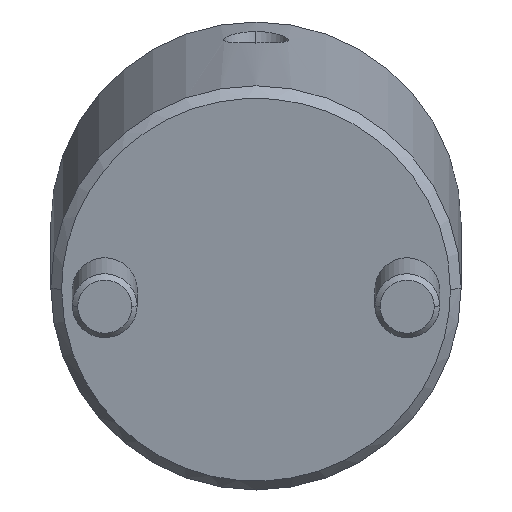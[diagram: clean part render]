
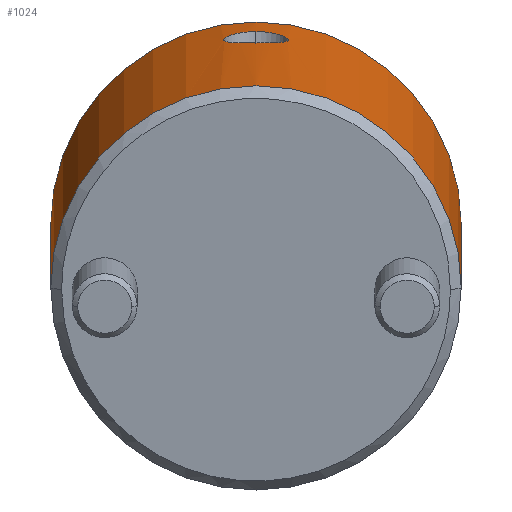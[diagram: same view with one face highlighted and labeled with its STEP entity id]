
A CAD part, front view. The second image highlights one B-rep face of the part: STEP entity #1024.
In plain terms, the highlighted cylindrical face has radius 19 mm (diameter 38 mm), a partial arc.
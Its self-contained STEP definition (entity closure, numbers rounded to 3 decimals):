
#760=CARTESIAN_POINT('Vertex',(0.,19.,1.)) ;
#763=CARTESIAN_POINT('Axis2P3D Location',(0.,0.,1.)) ;
#767=CARTESIAN_POINT('Vertex',(0.,-19.,1.)) ;
#919=CARTESIAN_POINT('Axis2P3D Location',(0.,0.,-1.8)) ;
#924=CARTESIAN_POINT('Line Origine',(0.,19.,-1.8)) ;
#928=CARTESIAN_POINT('Vertex',(0.,19.,35.)) ;
#931=CARTESIAN_POINT('Axis2P3D Location',(0.,0.,35.)) ;
#935=CARTESIAN_POINT('Vertex',(0.,-19.,35.)) ;
#938=CARTESIAN_POINT('Line Origine',(0.,-19.,-1.8)) ;
#950=CARTESIAN_POINT('Control Point',(19.,0.,29.901)) ;
#951=CARTESIAN_POINT('Control Point',(19.,0.082,29.901)) ;
#952=CARTESIAN_POINT('Control Point',(19.,0.164,29.898)) ;
#953=CARTESIAN_POINT('Control Point',(18.999,0.246,29.893)) ;
#954=CARTESIAN_POINT('Control Point',(18.995,0.492,29.866)) ;
#955=CARTESIAN_POINT('Control Point',(18.987,0.735,29.813)) ;
#956=CARTESIAN_POINT('Control Point',(18.98,0.898,29.765)) ;
#957=CARTESIAN_POINT('Control Point',(18.963,1.213,29.648)) ;
#958=CARTESIAN_POINT('Control Point',(18.941,1.506,29.488)) ;
#959=CARTESIAN_POINT('Control Point',(18.929,1.648,29.396)) ;
#960=CARTESIAN_POINT('Control Point',(18.904,1.921,29.193)) ;
#961=CARTESIAN_POINT('Control Point',(18.877,2.164,28.954)) ;
#962=CARTESIAN_POINT('Control Point',(18.864,2.277,28.825)) ;
#963=CARTESIAN_POINT('Control Point',(18.837,2.486,28.552)) ;
#964=CARTESIAN_POINT('Control Point',(18.814,2.657,28.251)) ;
#965=CARTESIAN_POINT('Control Point',(18.803,2.732,28.096)) ;
#966=CARTESIAN_POINT('Control Point',(18.784,2.86,27.777)) ;
#967=CARTESIAN_POINT('Control Point',(18.771,2.943,27.44)) ;
#968=CARTESIAN_POINT('Control Point',(18.766,2.974,27.267)) ;
#969=CARTESIAN_POINT('Control Point',(18.76,3.01,26.926)) ;
#970=CARTESIAN_POINT('Control Point',(18.762,2.999,26.584)) ;
#971=CARTESIAN_POINT('Control Point',(18.765,2.981,26.414)) ;
#972=CARTESIAN_POINT('Control Point',(18.776,2.908,25.993)) ;
#973=CARTESIAN_POINT('Control Point',(18.798,2.765,25.595)) ;
#974=CARTESIAN_POINT('Control Point',(18.815,2.653,25.367)) ;
#975=CARTESIAN_POINT('Control Point',(18.858,2.339,24.863)) ;
#976=CARTESIAN_POINT('Control Point',(18.906,1.913,24.454)) ;
#977=CARTESIAN_POINT('Control Point',(18.933,1.635,24.253)) ;
#978=CARTESIAN_POINT('Control Point',(18.97,1.148,24.)) ;
#979=CARTESIAN_POINT('Control Point',(18.992,0.616,23.861)) ;
#980=CARTESIAN_POINT('Control Point',(18.997,0.411,23.826)) ;
#981=CARTESIAN_POINT('Control Point',(19.,0.206,23.809)) ;
#982=CARTESIAN_POINT('Control Point',(19.,0.,23.809)) ;
#983=CARTESIAN_POINT('Vertex',(19.,0.,29.901)) ;
#985=CARTESIAN_POINT('Vertex',(19.,0.,23.809)) ;
#989=CARTESIAN_POINT('Control Point',(19.,0.,23.809)) ;
#990=CARTESIAN_POINT('Control Point',(19.,-0.168,23.809)) ;
#991=CARTESIAN_POINT('Control Point',(18.998,-0.336,23.82)) ;
#992=CARTESIAN_POINT('Control Point',(18.994,-0.503,23.843)) ;
#993=CARTESIAN_POINT('Control Point',(18.983,-0.835,23.914)) ;
#994=CARTESIAN_POINT('Control Point',(18.966,-1.155,24.03)) ;
#995=CARTESIAN_POINT('Control Point',(18.956,-1.309,24.098)) ;
#996=CARTESIAN_POINT('Control Point',(18.933,-1.607,24.257)) ;
#997=CARTESIAN_POINT('Control Point',(18.907,-1.88,24.456)) ;
#998=CARTESIAN_POINT('Control Point',(18.894,-2.01,24.565)) ;
#999=CARTESIAN_POINT('Control Point',(18.867,-2.251,24.799)) ;
#1000=CARTESIAN_POINT('Control Point',(18.841,-2.456,25.066)) ;
#1001=CARTESIAN_POINT('Control Point',(18.828,-2.55,25.207)) ;
#1002=CARTESIAN_POINT('Control Point',(18.799,-2.758,25.572)) ;
#1003=CARTESIAN_POINT('Control Point',(18.778,-2.899,25.971)) ;
#1004=CARTESIAN_POINT('Control Point',(18.768,-2.959,26.222)) ;
#1005=CARTESIAN_POINT('Control Point',(18.759,-3.015,26.646)) ;
#1006=CARTESIAN_POINT('Control Point',(18.762,-2.996,27.073)) ;
#1007=CARTESIAN_POINT('Control Point',(18.765,-2.977,27.245)) ;
#1008=CARTESIAN_POINT('Control Point',(18.778,-2.899,27.673)) ;
#1009=CARTESIAN_POINT('Control Point',(18.8,-2.75,28.08)) ;
#1010=CARTESIAN_POINT('Control Point',(18.817,-2.634,28.314)) ;
#1011=CARTESIAN_POINT('Control Point',(18.855,-2.359,28.755)) ;
#1012=CARTESIAN_POINT('Control Point',(18.895,-2.004,29.125)) ;
#1013=CARTESIAN_POINT('Control Point',(18.916,-1.807,29.291)) ;
#1014=CARTESIAN_POINT('Control Point',(18.955,-1.36,29.597)) ;
#1015=CARTESIAN_POINT('Control Point',(18.984,-0.854,29.794)) ;
#1016=CARTESIAN_POINT('Control Point',(18.995,-0.569,29.867)) ;
#1017=CARTESIAN_POINT('Control Point',(19.,-0.286,29.901)) ;
#1018=CARTESIAN_POINT('Control Point',(19.,0.,29.901)) ;
#764=DIRECTION('Axis2P3D Direction',(0.,0.,1.)) ;
#920=DIRECTION('Axis2P3D Direction',(0.,-0.,1.)) ;
#921=DIRECTION('Axis2P3D XDirection',(0.,-1.,0.)) ;
#925=DIRECTION('Vector Direction',(0.,0.,1.)) ;
#932=DIRECTION('Axis2P3D Direction',(0.,-0.,1.)) ;
#939=DIRECTION('Vector Direction',(0.,0.,1.)) ;
#765=AXIS2_PLACEMENT_3D('Circle Axis2P3D',#763,#764,$) ;
#922=AXIS2_PLACEMENT_3D('Cylinder Axis2P3D',#919,#920,#921) ;
#933=AXIS2_PLACEMENT_3D('Circle Axis2P3D',#931,#932,$) ;
#944=ORIENTED_EDGE('',*,*,#930,.F.) ;
#945=ORIENTED_EDGE('',*,*,#937,.T.) ;
#946=ORIENTED_EDGE('',*,*,#942,.T.) ;
#947=ORIENTED_EDGE('',*,*,#769,.F.) ;
#1021=ORIENTED_EDGE('',*,*,#987,.T.) ;
#1022=ORIENTED_EDGE('',*,*,#1019,.T.) ;
#1023=FACE_BOUND('',#1020,.T.) ;
#926=VECTOR('Line Direction',#925,1.) ;
#940=VECTOR('Line Direction',#939,1.) ;
#1024=ADVANCED_FACE('MANIFOLD_SOLID_BREP #1114',(#948,#1023),#923,.T.) ;
#949=B_SPLINE_CURVE_WITH_KNOTS('',5,(#950,#951,#952,#953,#954,#955,#956,#957,#958,#959,#960,#961,#962,#963,#964,#965,#966,#967,#968,#969,#970,#971,#972,#973,#974,#975,#976,#977,#978,#979,#980,#981,#982),.UNSPECIFIED.,.F.,.U.,(6,3,3,3,3,3,3,3,3,3,6),(0.,0.588,1.773,2.977,4.199,5.406,6.605,7.797,9.591,11.987,13.455),.UNSPECIFIED.) ;
#988=B_SPLINE_CURVE_WITH_KNOTS('',5,(#989,#990,#991,#992,#993,#994,#995,#996,#997,#998,#999,#1000,#1001,#1002,#1003,#1004,#1005,#1006,#1007,#1008,#1009,#1010,#1011,#1012,#1013,#1014,#1015,#1016,#1017,#1018),.UNSPECIFIED.,.F.,.U.,(6,3,3,3,3,3,3,3,3,6),(0.,1.205,2.406,3.611,4.813,6.599,7.796,9.61,11.423,13.458),.UNSPECIFIED.) ;
#766=CIRCLE('generated circle',#765,19.) ;
#934=CIRCLE('generated circle',#933,19.) ;
#923=CYLINDRICAL_SURFACE('generated cylinder',#922,19.) ;
#769=EDGE_CURVE('',#761,#768,#766,.F.) ;
#930=EDGE_CURVE('',#929,#761,#927,.F.) ;
#937=EDGE_CURVE('',#929,#936,#934,.F.) ;
#942=EDGE_CURVE('',#936,#768,#941,.F.) ;
#987=EDGE_CURVE('',#984,#986,#949,.T.) ;
#1019=EDGE_CURVE('',#986,#984,#988,.T.) ;
#943=EDGE_LOOP('',(#944,#945,#946,#947)) ;
#1020=EDGE_LOOP('',(#1021,#1022)) ;
#948=FACE_OUTER_BOUND('',#943,.T.) ;
#927=LINE('Line',#924,#926) ;
#941=LINE('Line',#938,#940) ;
#761=VERTEX_POINT('',#760) ;
#768=VERTEX_POINT('',#767) ;
#929=VERTEX_POINT('',#928) ;
#936=VERTEX_POINT('',#935) ;
#984=VERTEX_POINT('',#983) ;
#986=VERTEX_POINT('',#985) ;
